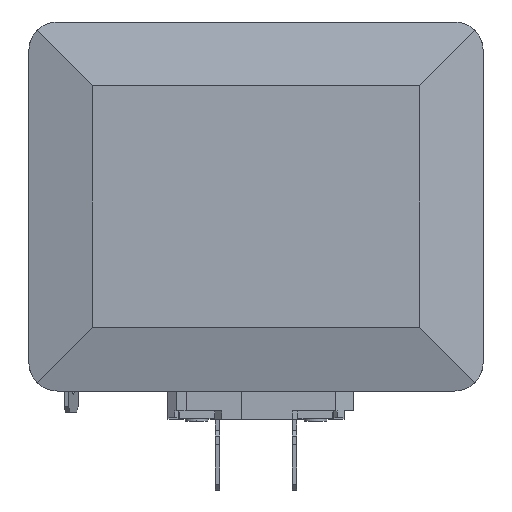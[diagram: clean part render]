
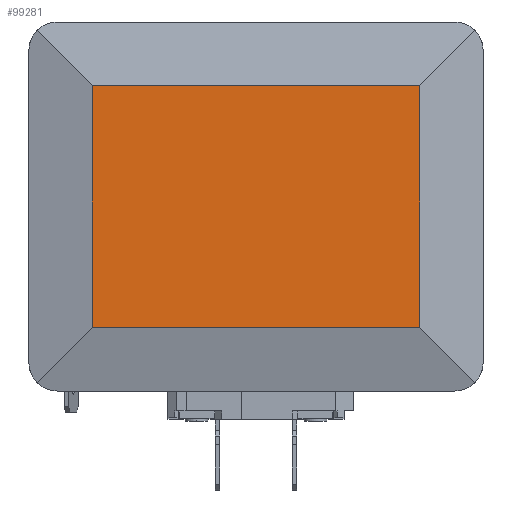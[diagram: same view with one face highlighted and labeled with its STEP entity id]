
A CAD part, front view. The second image highlights one B-rep face of the part: STEP entity #99281.
In plain terms, the highlighted planar face has unit normal (0, -1, 0) as drawn and (0, 0, 1) by its records, which use the part's own axes.
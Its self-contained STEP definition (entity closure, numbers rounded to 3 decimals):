
#98591=CARTESIAN_POINT(' ',(28.804,21.304,16.));
#98592=VERTEX_POINT(' ',#98591);
#98641=CARTESIAN_POINT(' ',(-28.804,21.304,16.));
#98642=VERTEX_POINT(' ',#98641);
#98656=CARTESIAN_POINT(' ',(28.804,21.304,16.));
#98661=DIRECTION(' ',(-1.,0.,0.));
#98666=VECTOR(' ',#98661,1.);
#98671=LINE('',#98656,#98666);
#98676=EDGE_CURVE(' ',#98592,#98642,#98671,.T.);
#98786=CARTESIAN_POINT(' ',(28.804,-21.304,16.));
#98791=DIRECTION(' ',(0.,1.,0.));
#98796=VECTOR(' ',#98791,1.);
#98801=LINE('',#98786,#98796);
#98806=CARTESIAN_POINT(' ',(28.804,-21.304,16.));
#98807=VERTEX_POINT(' ',#98806);
#98811=EDGE_CURVE(' ',#98807,#98592,#98801,.T.);
#98956=CARTESIAN_POINT(' ',(-28.804,-21.304,16.));
#98961=DIRECTION(' ',(1.,0.,0.));
#98966=VECTOR(' ',#98961,1.);
#98971=LINE('',#98956,#98966);
#98976=CARTESIAN_POINT(' ',(-28.804,-21.304,16.));
#98977=VERTEX_POINT(' ',#98976);
#98981=EDGE_CURVE(' ',#98977,#98807,#98971,.T.);
#99126=CARTESIAN_POINT(' ',(-28.804,21.304,16.));
#99131=DIRECTION(' ',(0.,-1.,0.));
#99136=VECTOR(' ',#99131,1.);
#99141=LINE('',#99126,#99136);
#99146=EDGE_CURVE(' ',#98642,#98977,#99141,.T.);
#99226=CARTESIAN_POINT(' ',(28.804,-21.304,16.));
#99231=DIRECTION(' ',(-0.,-0.,1.));
#99236=DIRECTION(' ',(0.,1.,0.));
#99241=AXIS2_PLACEMENT_3D(' ',#99226,#99231,#99236);
#99246=PLANE(' ',#99241);
#99251=ORIENTED_EDGE(' ',*,*,#98676,.T.);
#99256=ORIENTED_EDGE(' ',*,*,#99146,.T.);
#99261=ORIENTED_EDGE(' ',*,*,#98981,.T.);
#99266=ORIENTED_EDGE(' ',*,*,#98811,.T.);
#99271=EDGE_LOOP(' ',(#99251,#99256,#99261,#99266));
#99276=FACE_OUTER_BOUND(' ',#99271,.T.);
#99281=ADVANCED_FACE('',(#99276),#99246,.T.);
